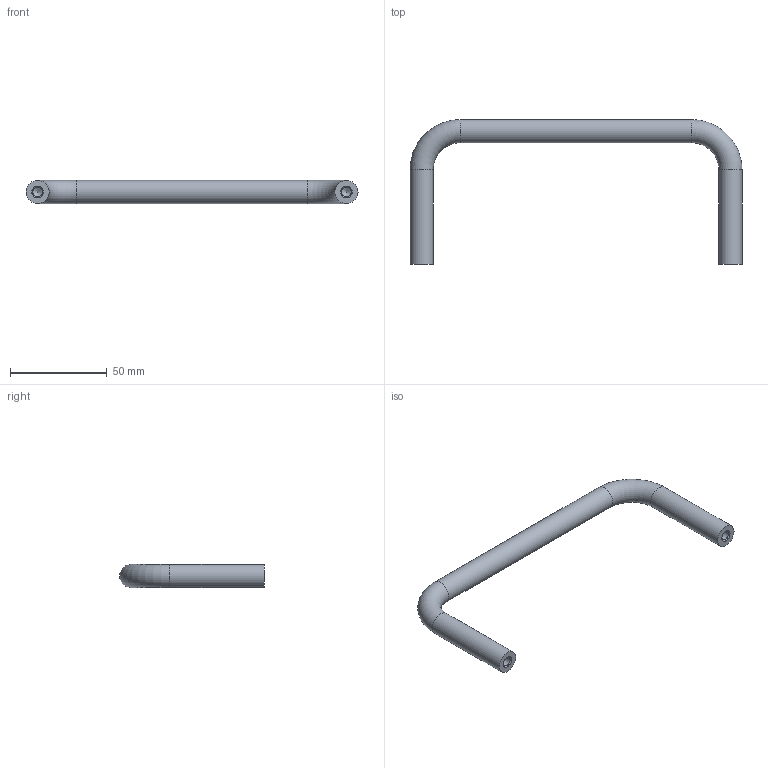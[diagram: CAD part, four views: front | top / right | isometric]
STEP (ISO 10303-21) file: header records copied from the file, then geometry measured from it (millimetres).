
FILE_DESCRIPTION(/* description */ ('STEP AP214'),/* implementation_level */ '2;1');
FILE_NAME(/* name */ 'Cabinet U-Handle_ Stainless Steel GN 435-NI-12-160-75-GS',/* time_stamp */ '2023-12-15T08:43:35+01:00',/* author */ ('License CC BY-ND 4.0'),/* organization */ ('CADENAS'),/* preprocessor_version */ 'ST-DEVELOPER v19.3',/* originating_system */ 'PARTsolutions',/* authorisation */ ' ');
FILE_SCHEMA (('AUTOMOTIVE_DESIGN {1 0 10303 214 3 1 1}'));
Length unit declared in the file: millimetre
Products named in the file (1): Cabinet U-Handle, Stainless Steel GN 435-NI-12-160-75-GS
Bounding box: 172 x 75 x 12 mm (x, y, z)
Volume: 31130.1 mm3; surface area: 11304.9 mm2
Topology: 1 solids, 1 shells, 13 faces, 30 edges, 19 vertices
Faces by surface type: cylinder 5, cone 4, plane 2, torus 2
Full cylindrical faces by diameter (mm): 4.917 x2, 12 x3
Entity records: 292 total; most frequent: DIRECTION 52, CARTESIAN_POINT 40, FACE_BOUND 26, AXIS2_PLACEMENT_3D 26, ORIENTED_EDGE 24, EDGE_LOOP 24, VERTEX_POINT 14, ADVANCED_FACE 13
